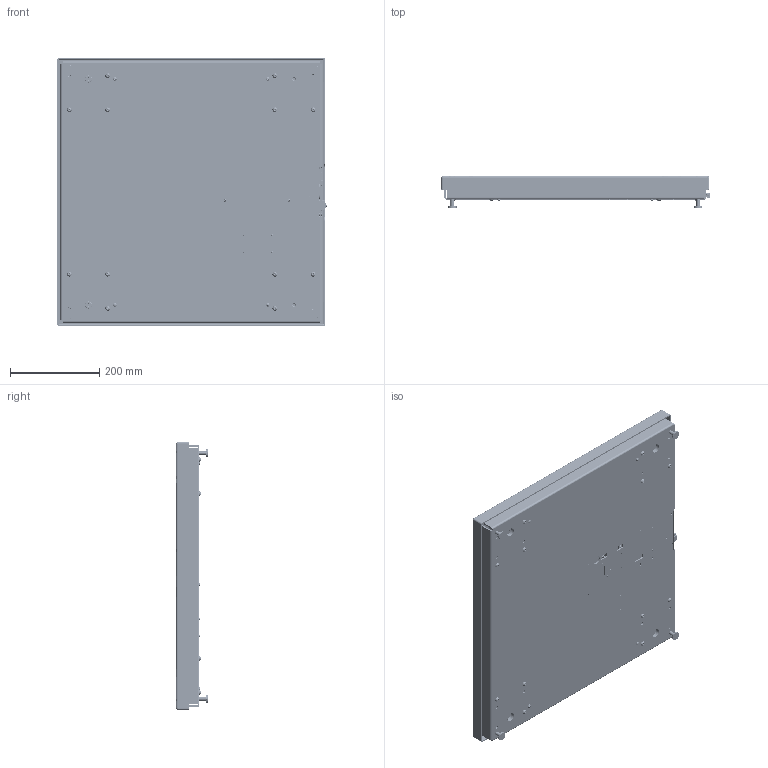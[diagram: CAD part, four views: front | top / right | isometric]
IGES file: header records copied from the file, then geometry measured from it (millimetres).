
Start section: SolidWorks IGES file using analytic representation for surfaces
Global section: file name: C:\0_Work\SolidWorks\~0_E-Scales\24x24\E-SCALE-6500PB-2424-1300.IGS; native system: SolidWorks 2017; preprocessor: SolidWorks 2017; author: vach01; date: 190827.162321; units: millimetre
Bounding box: 603.77 x 71.16 x 600 mm (x, y, z)
Surface area: 2066348 mm2 (no closed solid volume)
Topology: 0 solids, 0 shells, 20789 faces, 171719 edges, 171544 vertices
Faces by surface type: bspline 16301, revolution 4488
